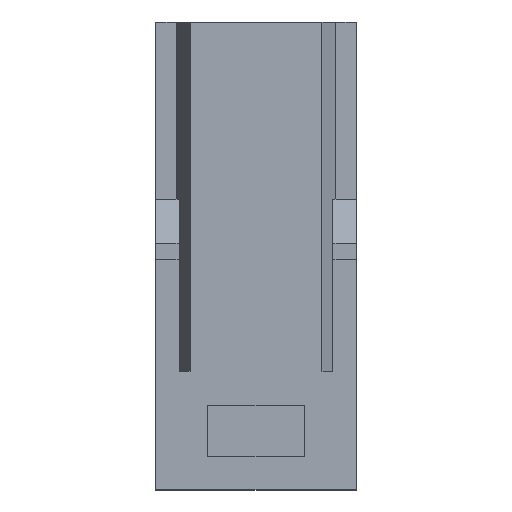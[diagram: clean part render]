
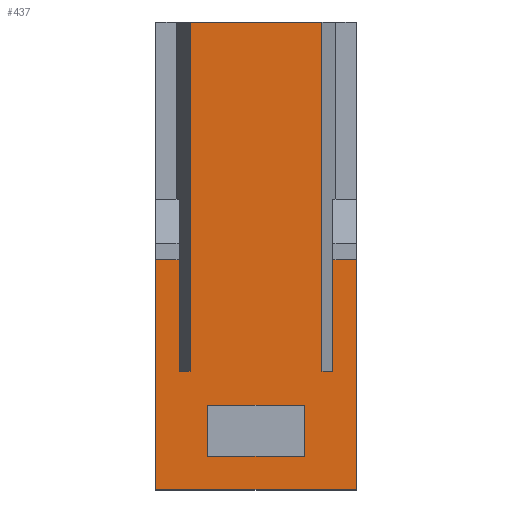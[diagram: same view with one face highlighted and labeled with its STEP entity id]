
A CAD part, top view. The second image highlights one B-rep face of the part: STEP entity #437.
In plain terms, the highlighted planar face has unit normal (0, 0, 1).
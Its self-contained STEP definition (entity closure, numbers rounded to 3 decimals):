
#62 = CARTESIAN_POINT ( 'NONE',  ( 3.5, -30.3, 15.15 ) ) ;
#80 = VECTOR ( 'NONE', #3336, 1000. ) ;
#106 = VERTEX_POINT ( 'NONE', #1872 ) ;
#128 = EDGE_CURVE ( 'NONE', #2692, #5266, #1027, .T. ) ;
#224 = EDGE_CURVE ( 'NONE', #5755, #344, #2924, .T. ) ;
#322 = CARTESIAN_POINT ( 'NONE',  ( 3.5, -30.3, 15.15 ) ) ;
#344 = VERTEX_POINT ( 'NONE', #4865 ) ;
#349 = EDGE_CURVE ( 'NONE', #2318, #5674, #789, .T. ) ;
#433 = CARTESIAN_POINT ( 'NONE',  ( 4.8, -24.1, 15.15 ) ) ;
#437 = ADVANCED_FACE ( 'NONE', ( #509, #1302 ), #770, .F. ) ;
#509 = FACE_BOUND ( 'NONE', #1274, .T. ) ;
#524 = VERTEX_POINT ( 'NONE', #5425 ) ;
#529 = VECTOR ( 'NONE', #3779, 1000. ) ;
#553 = DIRECTION ( 'NONE',  ( -1., 0., 0. ) ) ;
#638 = DIRECTION ( 'NONE',  ( 0., -1., 0. ) ) ;
#672 = VECTOR ( 'NONE', #1890, 1000. ) ;
#770 = PLANE ( 'NONE',  #4616 ) ;
#789 = LINE ( 'NONE', #4912, #5102 ) ;
#808 = DIRECTION ( 'NONE',  ( 0., 1., 0. ) ) ;
#842 = EDGE_CURVE ( 'NONE', #344, #2744, #5601, .T. ) ;
#920 = CARTESIAN_POINT ( 'NONE',  ( -7.3, -24.1, 15.15 ) ) ;
#982 = EDGE_LOOP ( 'NONE', ( #2381, #1089, #3173, #3055, #1230, #3523, #1903, #4120, #2675, #5725, #2598, #3726 ) ) ;
#1003 = EDGE_CURVE ( 'NONE', #106, #2605, #2288, .T. ) ;
#1027 = LINE ( 'NONE', #5097, #4454 ) ;
#1075 = CARTESIAN_POINT ( 'NONE',  ( -3.5, -26.6, 15.15 ) ) ;
#1089 = ORIENTED_EDGE ( 'NONE', *, *, #2135, .T. ) ;
#1167 = CARTESIAN_POINT ( 'NONE',  ( 3.5, -26.6, 15.15 ) ) ;
#1214 = DIRECTION ( 'NONE',  ( -1., 0., 0. ) ) ;
#1230 = ORIENTED_EDGE ( 'NONE', *, *, #4287, .F. ) ;
#1249 = CARTESIAN_POINT ( 'NONE',  ( -7.3, -66.334, 15.15 ) ) ;
#1251 = LINE ( 'NONE', #1865, #529 ) ;
#1274 = EDGE_LOOP ( 'NONE', ( #3640, #4081, #5662, #4593 ) ) ;
#1302 = FACE_OUTER_BOUND ( 'NONE', #982, .T. ) ;
#1398 = LINE ( 'NONE', #5850, #2590 ) ;
#1414 = CARTESIAN_POINT ( 'NONE',  ( 7.3, -16., 15.15 ) ) ;
#1488 = VERTEX_POINT ( 'NONE', #5417 ) ;
#1497 = CARTESIAN_POINT ( 'NONE',  ( 7.3, -32.7, 15.15 ) ) ;
#1508 = VECTOR ( 'NONE', #553, 1000. ) ;
#1684 = VECTOR ( 'NONE', #3121, 1000. ) ;
#1702 = DIRECTION ( 'NONE',  ( 0., 0., -1. ) ) ;
#1846 = EDGE_CURVE ( 'NONE', #5832, #1488, #4198, .T. ) ;
#1860 = EDGE_CURVE ( 'NONE', #2744, #5242, #4690, .T. ) ;
#1865 = CARTESIAN_POINT ( 'NONE',  ( -4.8, -24.1, 15.15 ) ) ;
#1872 = CARTESIAN_POINT ( 'NONE',  ( -5.6, -16., 15.15 ) ) ;
#1890 = DIRECTION ( 'NONE',  ( 0., 1., 0. ) ) ;
#1903 = ORIENTED_EDGE ( 'NONE', *, *, #3720, .T. ) ;
#1918 = DIRECTION ( 'NONE',  ( 1., 0., 0. ) ) ;
#1976 = CARTESIAN_POINT ( 'NONE',  ( -7.3, -32.7, 15.15 ) ) ;
#2107 = CARTESIAN_POINT ( 'NONE',  ( 7.3, -24.1, 15.15 ) ) ;
#2135 = EDGE_CURVE ( 'NONE', #2923, #2474, #3299, .T. ) ;
#2146 = CARTESIAN_POINT ( 'NONE',  ( 5.6, -24.1, 15.15 ) ) ;
#2288 = LINE ( 'NONE', #5322, #4236 ) ;
#2318 = VERTEX_POINT ( 'NONE', #1497 ) ;
#2338 = VECTOR ( 'NONE', #638, 1000. ) ;
#2381 = ORIENTED_EDGE ( 'NONE', *, *, #2738, .F. ) ;
#2474 = VERTEX_POINT ( 'NONE', #3509 ) ;
#2590 = VECTOR ( 'NONE', #3019, 1000. ) ;
#2598 = ORIENTED_EDGE ( 'NONE', *, *, #2701, .T. ) ;
#2605 = VERTEX_POINT ( 'NONE', #2731 ) ;
#2675 = ORIENTED_EDGE ( 'NONE', *, *, #4362, .T. ) ;
#2692 = VERTEX_POINT ( 'NONE', #2812 ) ;
#2695 = DIRECTION ( 'NONE',  ( 0., 1., 0. ) ) ;
#2701 = EDGE_CURVE ( 'NONE', #524, #5832, #3546, .T. ) ;
#2731 = CARTESIAN_POINT ( 'NONE',  ( -7.3, -16., 15.15 ) ) ;
#2738 = EDGE_CURVE ( 'NONE', #2923, #1488, #1251, .T. ) ;
#2744 = VERTEX_POINT ( 'NONE', #62 ) ;
#2812 = CARTESIAN_POINT ( 'NONE',  ( 5.6, -16., 15.15 ) ) ;
#2909 = EDGE_CURVE ( 'NONE', #106, #2474, #1398, .T. ) ;
#2923 = VERTEX_POINT ( 'NONE', #5410 ) ;
#2924 = LINE ( 'NONE', #4677, #80 ) ;
#2955 = LINE ( 'NONE', #1167, #1684 ) ;
#3019 = DIRECTION ( 'NONE',  ( 0., -1., 0. ) ) ;
#3055 = ORIENTED_EDGE ( 'NONE', *, *, #1003, .T. ) ;
#3121 = DIRECTION ( 'NONE',  ( -1., 0., 0. ) ) ;
#3173 = ORIENTED_EDGE ( 'NONE', *, *, #2909, .F. ) ;
#3299 = LINE ( 'NONE', #920, #1508 ) ;
#3336 = DIRECTION ( 'NONE',  ( 0., -1., 0. ) ) ;
#3488 = CARTESIAN_POINT ( 'NONE',  ( 7.3, -66.334, 15.15 ) ) ;
#3493 = VECTOR ( 'NONE', #2695, 1000. ) ;
#3500 = CARTESIAN_POINT ( 'NONE',  ( -7.3, -66.334, 15.15 ) ) ;
#3509 = CARTESIAN_POINT ( 'NONE',  ( -5.6, -24.1, 15.15 ) ) ;
#3523 = ORIENTED_EDGE ( 'NONE', *, *, #349, .F. ) ;
#3546 = LINE ( 'NONE', #433, #672 ) ;
#3580 = DIRECTION ( 'NONE',  ( 1., 0., 0. ) ) ;
#3640 = ORIENTED_EDGE ( 'NONE', *, *, #1860, .F. ) ;
#3720 = EDGE_CURVE ( 'NONE', #2318, #5266, #5456, .T. ) ;
#3726 = ORIENTED_EDGE ( 'NONE', *, *, #1846, .T. ) ;
#3779 = DIRECTION ( 'NONE',  ( 0., 1., 0. ) ) ;
#3849 = LINE ( 'NONE', #5675, #2338 ) ;
#3897 = VECTOR ( 'NONE', #1214, 1000. ) ;
#3946 = DIRECTION ( 'NONE',  ( -1., 0., 0. ) ) ;
#4015 = VECTOR ( 'NONE', #1918, 1000. ) ;
#4073 = DIRECTION ( 'NONE',  ( 0., 1., 0. ) ) ;
#4081 = ORIENTED_EDGE ( 'NONE', *, *, #842, .F. ) ;
#4120 = ORIENTED_EDGE ( 'NONE', *, *, #128, .F. ) ;
#4198 = LINE ( 'NONE', #5806, #3897 ) ;
#4236 = VECTOR ( 'NONE', #5759, 1000. ) ;
#4249 = VECTOR ( 'NONE', #4073, 1000. ) ;
#4257 = EDGE_CURVE ( 'NONE', #524, #5339, #5948, .T. ) ;
#4287 = EDGE_CURVE ( 'NONE', #5674, #2605, #4708, .T. ) ;
#4362 = EDGE_CURVE ( 'NONE', #2692, #5339, #3849, .T. ) ;
#4400 = VECTOR ( 'NONE', #808, 1000. ) ;
#4454 = VECTOR ( 'NONE', #5046, 1000. ) ;
#4514 = DIRECTION ( 'NONE',  ( 1., 0., 0. ) ) ;
#4571 = VECTOR ( 'NONE', #3580, 1000. ) ;
#4593 = ORIENTED_EDGE ( 'NONE', *, *, #5095, .F. ) ;
#4616 = AXIS2_PLACEMENT_3D ( 'NONE', #1249, #1702, #4514 ) ;
#4677 = CARTESIAN_POINT ( 'NONE',  ( -3.5, -30.3, 15.15 ) ) ;
#4690 = LINE ( 'NONE', #322, #4400 ) ;
#4708 = LINE ( 'NONE', #3500, #3493 ) ;
#4865 = CARTESIAN_POINT ( 'NONE',  ( -3.5, -30.3, 15.15 ) ) ;
#4912 = CARTESIAN_POINT ( 'NONE',  ( -7.3, -32.7, 15.15 ) ) ;
#5046 = DIRECTION ( 'NONE',  ( 1., 0., 0. ) ) ;
#5095 = EDGE_CURVE ( 'NONE', #5242, #5755, #2955, .T. ) ;
#5097 = CARTESIAN_POINT ( 'NONE',  ( 5.6, -16., 15.15 ) ) ;
#5102 = VECTOR ( 'NONE', #3946, 1000. ) ;
#5242 = VERTEX_POINT ( 'NONE', #5441 ) ;
#5266 = VERTEX_POINT ( 'NONE', #1414 ) ;
#5302 = CARTESIAN_POINT ( 'NONE',  ( 4.8, 1.3, 15.15 ) ) ;
#5322 = CARTESIAN_POINT ( 'NONE',  ( -5.6, -16., 15.15 ) ) ;
#5339 = VERTEX_POINT ( 'NONE', #2146 ) ;
#5410 = CARTESIAN_POINT ( 'NONE',  ( -4.8, -24.1, 15.15 ) ) ;
#5417 = CARTESIAN_POINT ( 'NONE',  ( -4.8, 1.3, 15.15 ) ) ;
#5425 = CARTESIAN_POINT ( 'NONE',  ( 4.8, -24.1, 15.15 ) ) ;
#5441 = CARTESIAN_POINT ( 'NONE',  ( 3.5, -26.6, 15.15 ) ) ;
#5456 = LINE ( 'NONE', #3488, #4249 ) ;
#5601 = LINE ( 'NONE', #5602, #4015 ) ;
#5602 = CARTESIAN_POINT ( 'NONE',  ( 3.5, -30.3, 15.15 ) ) ;
#5662 = ORIENTED_EDGE ( 'NONE', *, *, #224, .F. ) ;
#5674 = VERTEX_POINT ( 'NONE', #1976 ) ;
#5675 = CARTESIAN_POINT ( 'NONE',  ( 5.6, -24.1, 15.15 ) ) ;
#5725 = ORIENTED_EDGE ( 'NONE', *, *, #4257, .F. ) ;
#5755 = VERTEX_POINT ( 'NONE', #1075 ) ;
#5759 = DIRECTION ( 'NONE',  ( -1., 0., 0. ) ) ;
#5806 = CARTESIAN_POINT ( 'NONE',  ( -7.3, 1.3, 15.15 ) ) ;
#5832 = VERTEX_POINT ( 'NONE', #5302 ) ;
#5850 = CARTESIAN_POINT ( 'NONE',  ( -5.6, -24.1, 15.15 ) ) ;
#5948 = LINE ( 'NONE', #2107, #4571 ) ;
